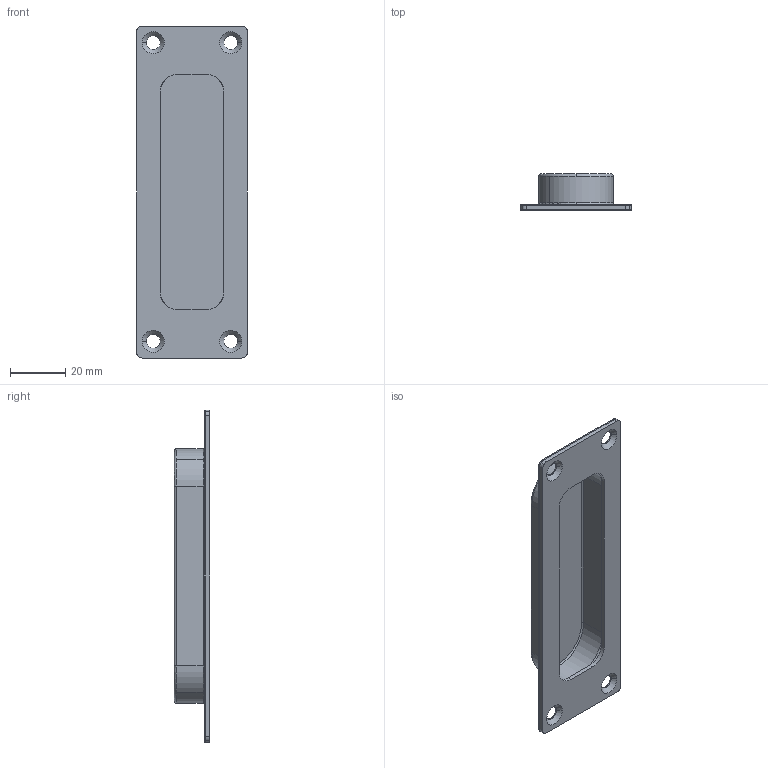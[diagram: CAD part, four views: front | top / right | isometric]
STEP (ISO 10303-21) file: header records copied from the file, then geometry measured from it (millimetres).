
FILE_DESCRIPTION(('STEP AP242'),'1');
FILE_NAME('OPO_41.520.06_volu_schn_3d.stp','2025-06-21T06:23:25',(' '),(' '),'Spatial InterOp 3D',' ',' ');
FILE_SCHEMA(('AP242_MANAGED_MODEL_BASED_3D_ENGINEERING_MIM_LF {1 0 10303 442 1 1 4}'));
Length unit declared in the file: millimetre
Products named in the file (1): 1
Bounding box: 40 x 13 x 120 mm (x, y, z)
Volume: 7569.3 mm3; surface area: 20464.7 mm2
Topology: 2 solids, 2 shells, 134 faces, 522 edges, 560 vertices
Faces by surface type: cylinder 66, plane 44, torus 16, cone 8
Entity records: 7437 total; most frequent: DIRECTION 1028, CARTESIAN_POINT 887, ORIENTED_EDGE 700, AXIS2_PLACEMENT_3D 369, EDGE_CURVE 350, STYLED_ITEM 306, PRESENTATION_STYLE_ASSIGNMENT 306, COLOUR_RGB 306
